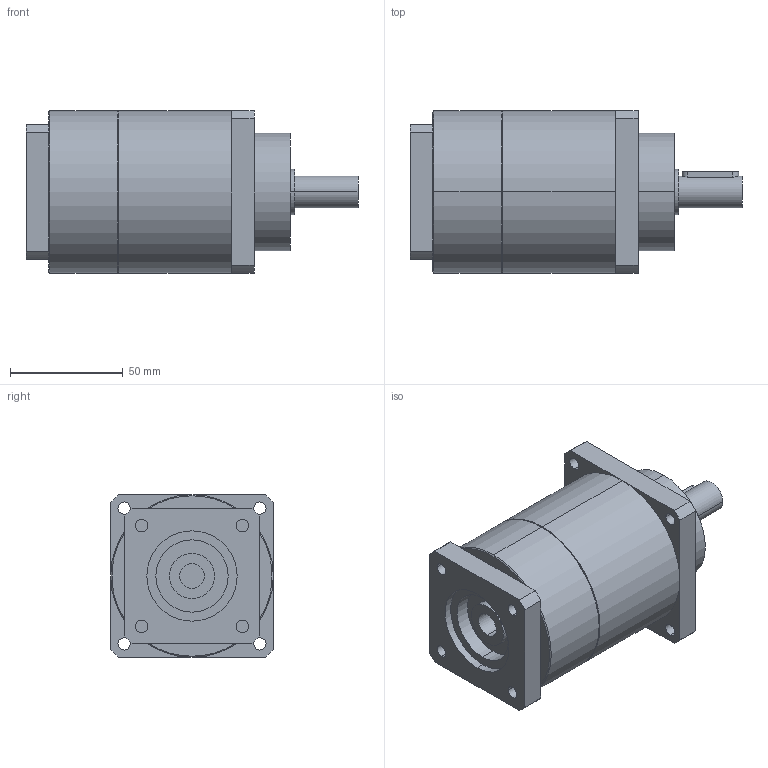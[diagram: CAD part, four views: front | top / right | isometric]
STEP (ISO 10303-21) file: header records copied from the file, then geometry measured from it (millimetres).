
FILE_DESCRIPTION(('CoCreate Modeling STEP Export'),'2;1');
FILE_NAME('GPT75_ig-9-12-16-20-25-28-35-40-50-70-100_14_B5T_11_P03.stp','2014-08-27T13:34:11',(''),(''),'CoCreate Modeling STEP processor for AP214 (Solid Model)','CoCreate Modeling 16.00C 25-Feb-2009 (C) Parametric Technology GmbH','');
FILE_SCHEMA(('AUTOMOTIVE_DESIGN { 1 0 10303 214 1 1 1 1 }'));
Length unit declared in the file: millimetre
Products named in the file (2): GPT75_ig-9-12-16-20-25-28-35-40-50-70-100_14_B5T_11_P03
Assembly tree (1 placements, depth 2):
  GPT75_ig-9-12-16-20-25-28-35-40-50-70-100_14_B5T_11_P03
    GPT75_ig-9-12-16-20-25-28-35-40-50-70-100_14_B5T_11_P03
Bounding box: 147 x 72 x 72 mm (x, y, z)
Volume: 442569.5 mm3; surface area: 42116.2 mm2
Topology: 1 solids, 1 shells, 88 faces, 210 edges, 137 vertices
Faces by surface type: cylinder 46, plane 38, cone 4
Entity records: 2592 total; most frequent: CARTESIAN_POINT 732, ORIENTED_EDGE 420, DIRECTION 326, EDGE_CURVE 210, VERTEX_POINT 137, AXIS2_PLACEMENT_3D 119, EDGE_LOOP 109, VECTOR 88
